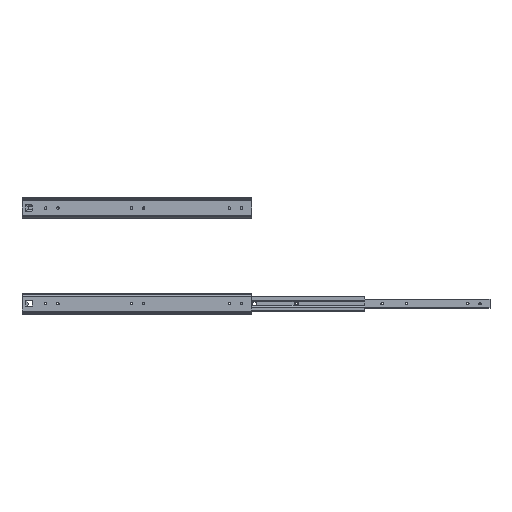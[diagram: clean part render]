
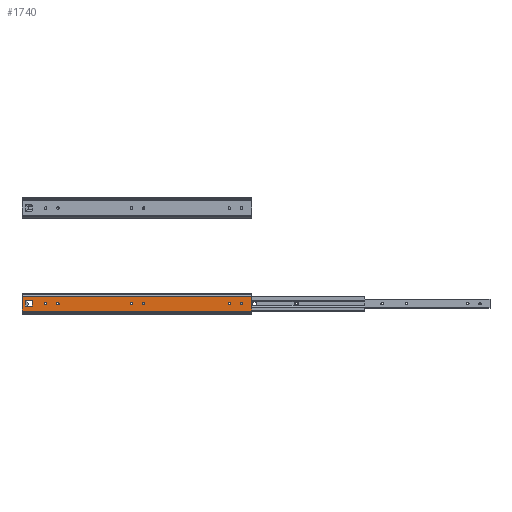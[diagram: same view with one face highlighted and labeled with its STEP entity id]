
A CAD part, top view. The second image highlights one B-rep face of the part: STEP entity #1740.
In plain terms, the highlighted planar face has unit normal (0, 0, 1) as drawn and (0, 0, -1) by its records, which use the part's own axes.
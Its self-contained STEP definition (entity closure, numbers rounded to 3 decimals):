
#528=CARTESIAN_POINT('',(-541.3,0.,0.0));
#529=VERTEX_POINT('',#528);
#530=CARTESIAN_POINT('',(-538.0,0.,0.0));
#531=DIRECTION('',(0.0,0.0,1.0));
#532=DIRECTION('',(1.0,0.0,0.0));
#533=AXIS2_PLACEMENT_3D('',#530,#531,#532);
#534=CIRCLE('',#533,3.3);
#535=EDGE_CURVE('',#529,#529,#534,.T.);
#577=CARTESIAN_POINT('',(-509.3,0.,0.0));
#578=VERTEX_POINT('',#577);
#579=CARTESIAN_POINT('',(-506.0,0.,0.0));
#580=DIRECTION('',(0.0,0.0,1.0));
#581=DIRECTION('',(1.0,0.0,0.0));
#582=AXIS2_PLACEMENT_3D('',#579,#580,#581);
#583=CIRCLE('',#582,3.3);
#584=EDGE_CURVE('',#578,#578,#583,.T.);
#626=CARTESIAN_POINT('',(-317.3,0.,0.0));
#627=VERTEX_POINT('',#626);
#628=CARTESIAN_POINT('',(-314.0,0.,0.0));
#629=DIRECTION('',(0.0,0.0,1.0));
#630=DIRECTION('',(1.0,0.0,0.0));
#631=AXIS2_PLACEMENT_3D('',#628,#629,#630);
#632=CIRCLE('',#631,3.3);
#633=EDGE_CURVE('',#627,#627,#632,.T.);
#675=CARTESIAN_POINT('',(-285.3,0.,0.0));
#676=VERTEX_POINT('',#675);
#677=CARTESIAN_POINT('',(-282.0,0.,0.0));
#678=DIRECTION('',(0.0,0.0,1.0));
#679=DIRECTION('',(1.0,0.0,0.0));
#680=AXIS2_PLACEMENT_3D('',#677,#678,#679);
#681=CIRCLE('',#680,3.3);
#682=EDGE_CURVE('',#676,#676,#681,.T.);
#724=CARTESIAN_POINT('',(-61.3,0.,0.0));
#725=VERTEX_POINT('',#724);
#726=CARTESIAN_POINT('',(-58.,0.,0.0));
#727=DIRECTION('',(0.0,0.0,1.0));
#728=DIRECTION('',(1.0,0.0,0.0));
#729=AXIS2_PLACEMENT_3D('',#726,#727,#728);
#730=CIRCLE('',#729,3.3);
#731=EDGE_CURVE('',#725,#725,#730,.T.);
#773=CARTESIAN_POINT('',(-29.3,0.,0.0));
#774=VERTEX_POINT('',#773);
#775=CARTESIAN_POINT('',(-26.0,0.,0.0));
#776=DIRECTION('',(0.0,0.0,1.0));
#777=DIRECTION('',(1.0,0.0,0.0));
#778=AXIS2_PLACEMENT_3D('',#775,#776,#777);
#779=CIRCLE('',#778,3.3);
#780=EDGE_CURVE('',#774,#774,#779,.T.);
#801=CARTESIAN_POINT('',(-591.5,-6.45,0.0));
#802=VERTEX_POINT('',#801);
#803=CARTESIAN_POINT('',(-589.5,-8.45,0.0));
#804=VERTEX_POINT('',#803);
#805=CARTESIAN_POINT('',(-589.5,-6.45,0.));
#806=DIRECTION('',(0.0,0.0,1.0));
#807=DIRECTION('',(-1.0,0.0,0.0));
#808=AXIS2_PLACEMENT_3D('',#805,#806,#807);
#809=CIRCLE('',#808,2.);
#810=EDGE_CURVE('',#802,#804,#809,.T.);
#841=CARTESIAN_POINT('',(-575.5,-8.45,0.0));
#842=VERTEX_POINT('',#841);
#843=CARTESIAN_POINT('',(-589.5,-8.45,0.0));
#844=DIRECTION('',(1.0,0.0,0.0));
#845=VECTOR('',#844,14.0);
#846=LINE('',#843,#845);
#847=EDGE_CURVE('',#804,#842,#846,.T.);
#873=CARTESIAN_POINT('',(-573.5,-6.45,0.0));
#874=VERTEX_POINT('',#873);
#875=CARTESIAN_POINT('',(-575.5,-6.45,0.));
#876=DIRECTION('',(0.0,0.0,1.0));
#877=DIRECTION('',(0.0,-1.0,0.0));
#878=AXIS2_PLACEMENT_3D('',#875,#876,#877);
#879=CIRCLE('',#878,2.);
#880=EDGE_CURVE('',#842,#874,#879,.T.);
#906=CARTESIAN_POINT('',(-573.5,6.45,0.0));
#907=VERTEX_POINT('',#906);
#908=CARTESIAN_POINT('',(-573.5,-6.45,0.0));
#909=DIRECTION('',(0.0,1.0,0.0));
#910=VECTOR('',#909,12.9);
#911=LINE('',#908,#910);
#912=EDGE_CURVE('',#874,#907,#911,.T.);
#937=CARTESIAN_POINT('',(-575.5,8.45,0.0));
#938=VERTEX_POINT('',#937);
#939=CARTESIAN_POINT('',(-575.5,6.45,0.));
#940=DIRECTION('',(0.0,0.0,1.0));
#941=DIRECTION('',(1.0,0.0,0.0));
#942=AXIS2_PLACEMENT_3D('',#939,#940,#941);
#943=CIRCLE('',#942,2.);
#944=EDGE_CURVE('',#907,#938,#943,.T.);
#970=CARTESIAN_POINT('',(-589.5,8.45,0.0));
#971=VERTEX_POINT('',#970);
#972=CARTESIAN_POINT('',(-575.5,8.45,0.0));
#973=DIRECTION('',(-1.0,0.0,0.0));
#974=VECTOR('',#973,14.0);
#975=LINE('',#972,#974);
#976=EDGE_CURVE('',#938,#971,#975,.T.);
#1000=CARTESIAN_POINT('',(-591.5,6.45,0.0));
#1001=VERTEX_POINT('',#1000);
#1002=CARTESIAN_POINT('',(-589.5,6.45,0.));
#1003=DIRECTION('',(0.0,0.0,1.0));
#1004=DIRECTION('',(0.0,1.0,0.0));
#1005=AXIS2_PLACEMENT_3D('',#1002,#1003,#1004);
#1006=CIRCLE('',#1005,2.);
#1007=EDGE_CURVE('',#971,#1001,#1006,.T.);
#1033=CARTESIAN_POINT('',(-591.5,6.45,0.0));
#1034=DIRECTION('',(0.0,-1.0,0.0));
#1035=VECTOR('',#1034,12.9);
#1036=LINE('',#1033,#1035);
#1037=EDGE_CURVE('',#1001,#802,#1036,.T.);
#1309=CARTESIAN_POINT('',(-600.0,19.368,0.0));
#1310=VERTEX_POINT('',#1309);
#1326=CARTESIAN_POINT('',(0.0,19.368,0.0));
#1327=VERTEX_POINT('',#1326);
#1335=CARTESIAN_POINT('',(-600.0,19.368,0.0));
#1336=DIRECTION('',(1.0,0.0,0.0));
#1337=VECTOR('',#1336,600.0);
#1338=LINE('',#1335,#1337);
#1339=EDGE_CURVE('',#1310,#1327,#1338,.T.);
#1450=CARTESIAN_POINT('',(-600.0,-19.368,0.0));
#1451=VERTEX_POINT('',#1450);
#1459=CARTESIAN_POINT('',(0.0,-19.368,0.0));
#1460=VERTEX_POINT('',#1459);
#1461=CARTESIAN_POINT('',(-600.0,-19.368,0.0));
#1462=DIRECTION('',(1.0,0.0,0.0));
#1463=VECTOR('',#1462,600.0);
#1464=LINE('',#1461,#1463);
#1465=EDGE_CURVE('',#1451,#1460,#1464,.T.);
#1691=CARTESIAN_POINT('',(-300.,0.,0.0));
#1692=DIRECTION('',(0.0,0.0,1.0));
#1693=DIRECTION('',(1.0,0.0,0.0));
#1694=AXIS2_PLACEMENT_3D('',#1691,#1692,#1693);
#1695=PLANE('',#1694);
#1696=ORIENTED_EDGE('',*,*,#1339,.T.);
#1697=CARTESIAN_POINT('',(0.0,19.368,0.0));
#1698=DIRECTION('',(0.0,-1.0,0.0));
#1699=VECTOR('',#1698,38.735);
#1700=LINE('',#1697,#1699);
#1701=EDGE_CURVE('',#1327,#1460,#1700,.T.);
#1702=ORIENTED_EDGE('',*,*,#1701,.T.);
#1703=ORIENTED_EDGE('',*,*,#1465,.F.);
#1704=CARTESIAN_POINT('',(-600.0,-19.368,0.0));
#1705=DIRECTION('',(0.0,1.0,0.0));
#1706=VECTOR('',#1705,38.735);
#1707=LINE('',#1704,#1706);
#1708=EDGE_CURVE('',#1451,#1310,#1707,.T.);
#1709=ORIENTED_EDGE('',*,*,#1708,.T.);
#1710=EDGE_LOOP('',(#1696,#1702,#1703,#1709));
#1711=FACE_OUTER_BOUND('',#1710,.T.);
#1712=ORIENTED_EDGE('',*,*,#535,.T.);
#1713=EDGE_LOOP('',(#1712));
#1714=FACE_BOUND('',#1713,.T.);
#1715=ORIENTED_EDGE('',*,*,#584,.T.);
#1716=EDGE_LOOP('',(#1715));
#1717=FACE_BOUND('',#1716,.T.);
#1718=ORIENTED_EDGE('',*,*,#633,.T.);
#1719=EDGE_LOOP('',(#1718));
#1720=FACE_BOUND('',#1719,.T.);
#1721=ORIENTED_EDGE('',*,*,#682,.T.);
#1722=EDGE_LOOP('',(#1721));
#1723=FACE_BOUND('',#1722,.T.);
#1724=ORIENTED_EDGE('',*,*,#731,.T.);
#1725=EDGE_LOOP('',(#1724));
#1726=FACE_BOUND('',#1725,.T.);
#1727=ORIENTED_EDGE('',*,*,#780,.T.);
#1728=EDGE_LOOP('',(#1727));
#1729=FACE_BOUND('',#1728,.T.);
#1730=ORIENTED_EDGE('',*,*,#944,.T.);
#1731=ORIENTED_EDGE('',*,*,#976,.T.);
#1732=ORIENTED_EDGE('',*,*,#1007,.T.);
#1733=ORIENTED_EDGE('',*,*,#1037,.T.);
#1734=ORIENTED_EDGE('',*,*,#810,.T.);
#1735=ORIENTED_EDGE('',*,*,#847,.T.);
#1736=ORIENTED_EDGE('',*,*,#880,.T.);
#1737=ORIENTED_EDGE('',*,*,#912,.T.);
#1738=EDGE_LOOP('',(#1730,#1731,#1732,#1733,#1734,#1735,#1736,#1737));
#1739=FACE_BOUND('',#1738,.T.);
#1740=ADVANCED_FACE('',(#1711,#1714,#1717,#1720,#1723,#1726,#1729,#1739),#1695,.F.);
